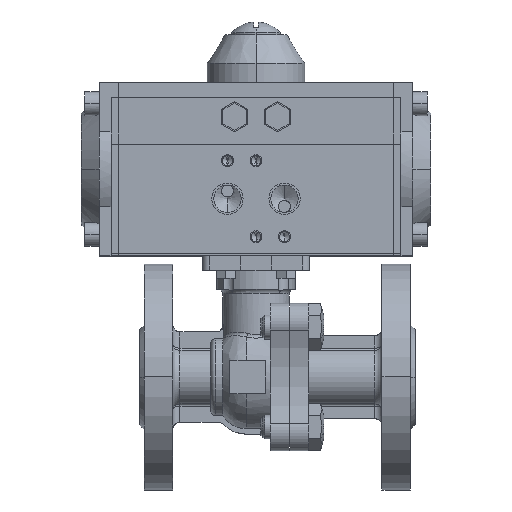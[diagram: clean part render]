
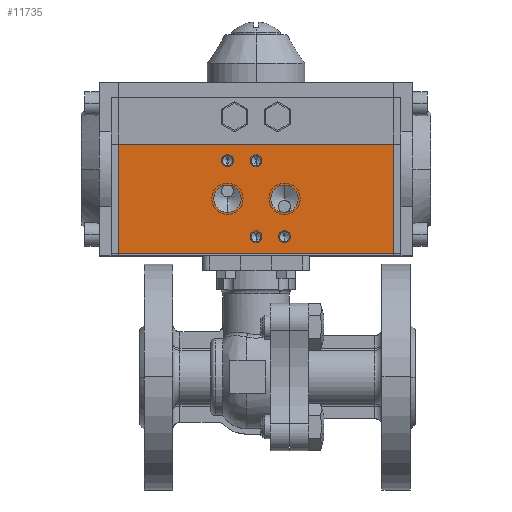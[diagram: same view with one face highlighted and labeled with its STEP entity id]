
A CAD part, top view. The second image highlights one B-rep face of the part: STEP entity #11735.
In plain terms, the highlighted planar face has unit normal (0, 0, 1) as drawn and (1, 0, 0) by its records, which use the part's own axes.
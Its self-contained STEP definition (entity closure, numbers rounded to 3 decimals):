
#9260=DIRECTION('',(0.,1.,0.));
#9261=VECTOR('',#9260,46.);
#9262=CARTESIAN_POINT('',(43.,-35.5,-58.));
#9263=LINE('',#9262,#9261);
#9402=DIRECTION('',(0.,0.,1.));
#9403=VECTOR('',#9402,116.);
#9404=CARTESIAN_POINT('',(43.,10.5,-58.));
#9405=LINE('',#9404,#9403);
#9406=DIRECTION('',(0.,0.,1.));
#9407=VECTOR('',#9406,116.);
#9408=CARTESIAN_POINT('',(43.,-35.5,-58.));
#9409=LINE('',#9408,#9407);
#9410=CARTESIAN_POINT('',(43.,-12.5,-12.));
#9411=DIRECTION('',(1.,0.,0.));
#9412=DIRECTION('',(0.,-1.,0.));
#9413=AXIS2_PLACEMENT_3D('',#9410,#9411,#9412);
#9415=CARTESIAN_POINT('',(43.,-12.5,-12.));
#9416=DIRECTION('',(1.,0.,0.));
#9417=DIRECTION('',(0.,1.,0.));
#9418=AXIS2_PLACEMENT_3D('',#9415,#9416,#9417);
#9420=CARTESIAN_POINT('',(43.,-12.5,12.));
#9421=DIRECTION('',(1.,0.,0.));
#9422=DIRECTION('',(0.,-1.,0.));
#9423=AXIS2_PLACEMENT_3D('',#9420,#9421,#9422);
#9425=CARTESIAN_POINT('',(43.,-12.5,12.));
#9426=DIRECTION('',(1.,0.,0.));
#9427=DIRECTION('',(0.,1.,0.));
#9428=AXIS2_PLACEMENT_3D('',#9425,#9426,#9427);
#9430=CARTESIAN_POINT('',(43.,3.5,0.));
#9431=DIRECTION('',(1.,0.,0.));
#9432=DIRECTION('',(0.,-1.,0.));
#9433=AXIS2_PLACEMENT_3D('',#9430,#9431,#9432);
#9435=CARTESIAN_POINT('',(43.,3.5,0.));
#9436=DIRECTION('',(1.,0.,0.));
#9437=DIRECTION('',(0.,1.,0.));
#9438=AXIS2_PLACEMENT_3D('',#9435,#9436,#9437);
#9440=CARTESIAN_POINT('',(43.,3.5,12.));
#9441=DIRECTION('',(1.,0.,0.));
#9442=DIRECTION('',(0.,-1.,0.));
#9443=AXIS2_PLACEMENT_3D('',#9440,#9441,#9442);
#9445=CARTESIAN_POINT('',(43.,3.5,12.));
#9446=DIRECTION('',(1.,0.,0.));
#9447=DIRECTION('',(0.,1.,0.));
#9448=AXIS2_PLACEMENT_3D('',#9445,#9446,#9447);
#9450=CARTESIAN_POINT('',(43.,-28.5,0.));
#9451=DIRECTION('',(1.,0.,0.));
#9452=DIRECTION('',(0.,-1.,0.));
#9453=AXIS2_PLACEMENT_3D('',#9450,#9451,#9452);
#9455=CARTESIAN_POINT('',(43.,-28.5,0.));
#9456=DIRECTION('',(1.,0.,0.));
#9457=DIRECTION('',(0.,1.,0.));
#9458=AXIS2_PLACEMENT_3D('',#9455,#9456,#9457);
#9460=CARTESIAN_POINT('',(43.,-28.5,-12.));
#9461=DIRECTION('',(1.,0.,0.));
#9462=DIRECTION('',(0.,-1.,0.));
#9463=AXIS2_PLACEMENT_3D('',#9460,#9461,#9462);
#9465=CARTESIAN_POINT('',(43.,-28.5,-12.));
#9466=DIRECTION('',(1.,0.,0.));
#9467=DIRECTION('',(0.,1.,0.));
#9468=AXIS2_PLACEMENT_3D('',#9465,#9466,#9467);
#9778=DIRECTION('',(0.,1.,0.));
#9779=VECTOR('',#9778,46.);
#9780=CARTESIAN_POINT('',(43.,-35.5,58.));
#9781=LINE('',#9780,#9779);
#11021=CARTESIAN_POINT('',(43.,-35.5,-58.));
#11022=VERTEX_POINT('',#11021);
#11023=CARTESIAN_POINT('',(43.,10.5,-58.));
#11024=VERTEX_POINT('',#11023);
#11045=CARTESIAN_POINT('',(43.,-35.5,58.));
#11046=VERTEX_POINT('',#11045);
#11047=CARTESIAN_POINT('',(43.,10.5,58.));
#11048=VERTEX_POINT('',#11047);
#11317=CARTESIAN_POINT('',(43.,-18.25,-12.));
#11318=CARTESIAN_POINT('',(43.,-6.75,-12.));
#11319=VERTEX_POINT('',#11317);
#11320=VERTEX_POINT('',#11318);
#11327=CARTESIAN_POINT('',(43.,-18.25,12.));
#11328=VERTEX_POINT('',#11327);
#11330=CARTESIAN_POINT('',(43.,-6.75,12.));
#11332=VERTEX_POINT('',#11330);
#11353=CARTESIAN_POINT('',(43.,1.4,0.));
#11354=CARTESIAN_POINT('',(43.,5.6,0.));
#11355=VERTEX_POINT('',#11353);
#11356=VERTEX_POINT('',#11354);
#11363=CARTESIAN_POINT('',(43.,1.4,12.));
#11364=CARTESIAN_POINT('',(43.,5.6,12.));
#11365=VERTEX_POINT('',#11363);
#11366=VERTEX_POINT('',#11364);
#11373=CARTESIAN_POINT('',(43.,-30.6,0.));
#11374=CARTESIAN_POINT('',(43.,-26.4,0.));
#11375=VERTEX_POINT('',#11373);
#11376=VERTEX_POINT('',#11374);
#11383=CARTESIAN_POINT('',(43.,-30.6,-12.));
#11384=CARTESIAN_POINT('',(43.,-26.4,-12.));
#11385=VERTEX_POINT('',#11383);
#11386=VERTEX_POINT('',#11384);
#11686=CARTESIAN_POINT('',(43.,-35.5,-58.));
#11687=DIRECTION('',(1.,0.,0.));
#11688=DIRECTION('',(0.,1.,0.));
#11689=AXIS2_PLACEMENT_3D('',#11686,#11687,#11688);
#11690=PLANE('',#11689);
#11691=ORIENTED_EDGE('',*,*,#11544,.F.);
#11693=ORIENTED_EDGE('',*,*,#11692,.T.);
#11695=ORIENTED_EDGE('',*,*,#11694,.T.);
#11696=ORIENTED_EDGE('',*,*,#11678,.F.);
#11697=EDGE_LOOP('',(#11691,#11693,#11695,#11696));
#11698=FACE_OUTER_BOUND('',#11697,.F.);
#11700=ORIENTED_EDGE('',*,*,#11699,.T.);
#11702=ORIENTED_EDGE('',*,*,#11701,.T.);
#11703=EDGE_LOOP('',(#11700,#11702));
#11704=FACE_BOUND('',#11703,.F.);
#11706=ORIENTED_EDGE('',*,*,#11705,.T.);
#11708=ORIENTED_EDGE('',*,*,#11707,.T.);
#11709=EDGE_LOOP('',(#11706,#11708));
#11710=FACE_BOUND('',#11709,.F.);
#11712=ORIENTED_EDGE('',*,*,#11711,.T.);
#11714=ORIENTED_EDGE('',*,*,#11713,.T.);
#11715=EDGE_LOOP('',(#11712,#11714));
#11716=FACE_BOUND('',#11715,.F.);
#11718=ORIENTED_EDGE('',*,*,#11717,.T.);
#11720=ORIENTED_EDGE('',*,*,#11719,.T.);
#11721=EDGE_LOOP('',(#11718,#11720));
#11722=FACE_BOUND('',#11721,.F.);
#11724=ORIENTED_EDGE('',*,*,#11723,.T.);
#11726=ORIENTED_EDGE('',*,*,#11725,.T.);
#11727=EDGE_LOOP('',(#11724,#11726));
#11728=FACE_BOUND('',#11727,.F.);
#11730=ORIENTED_EDGE('',*,*,#11729,.T.);
#11732=ORIENTED_EDGE('',*,*,#11731,.T.);
#11733=EDGE_LOOP('',(#11730,#11732));
#11734=FACE_BOUND('',#11733,.F.);
#11735=ADVANCED_FACE('',(#11698,#11704,#11710,#11716,#11722,#11728,#11734),
#11690,.T.);
#9414=CIRCLE('',#9413,5.75);
#9419=CIRCLE('',#9418,5.75);
#9424=CIRCLE('',#9423,5.75);
#9429=CIRCLE('',#9428,5.75);
#9434=CIRCLE('',#9433,2.1);
#9439=CIRCLE('',#9438,2.1);
#9444=CIRCLE('',#9443,2.1);
#9449=CIRCLE('',#9448,2.1);
#9454=CIRCLE('',#9453,2.1);
#9459=CIRCLE('',#9458,2.1);
#9464=CIRCLE('',#9463,2.1);
#9469=CIRCLE('',#9468,2.1);
#11544=EDGE_CURVE('',#11022,#11024,#9263,.T.);
#11678=EDGE_CURVE('',#11024,#11048,#9405,.T.);
#11692=EDGE_CURVE('',#11022,#11046,#9409,.T.);
#11694=EDGE_CURVE('',#11046,#11048,#9781,.T.);
#11699=EDGE_CURVE('',#11319,#11320,#9414,.T.);
#11701=EDGE_CURVE('',#11320,#11319,#9419,.T.);
#11705=EDGE_CURVE('',#11328,#11332,#9424,.T.);
#11707=EDGE_CURVE('',#11332,#11328,#9429,.T.);
#11711=EDGE_CURVE('',#11355,#11356,#9434,.T.);
#11713=EDGE_CURVE('',#11356,#11355,#9439,.T.);
#11717=EDGE_CURVE('',#11365,#11366,#9444,.T.);
#11719=EDGE_CURVE('',#11366,#11365,#9449,.T.);
#11723=EDGE_CURVE('',#11375,#11376,#9454,.T.);
#11725=EDGE_CURVE('',#11376,#11375,#9459,.T.);
#11729=EDGE_CURVE('',#11385,#11386,#9464,.T.);
#11731=EDGE_CURVE('',#11386,#11385,#9469,.T.);
